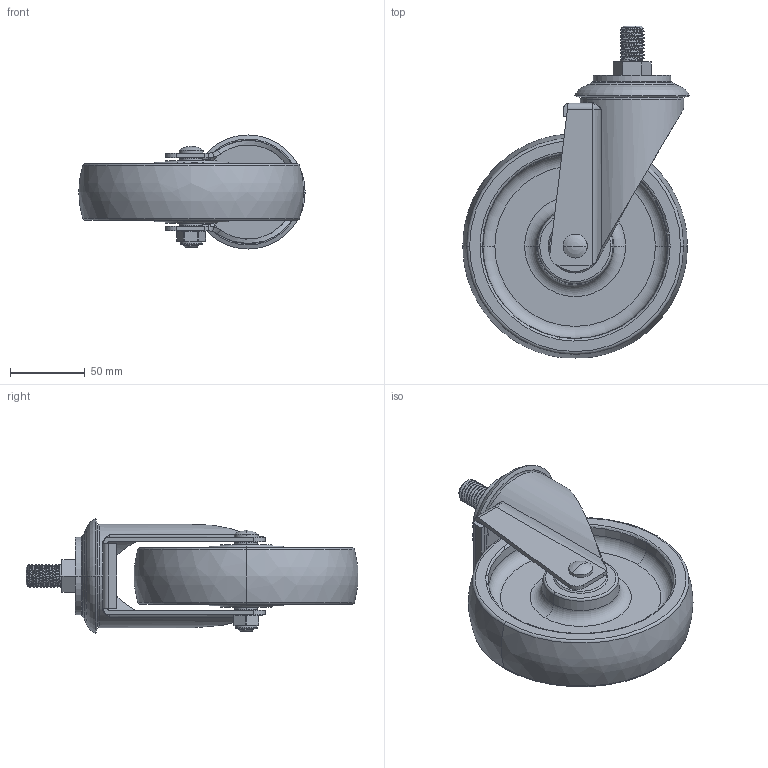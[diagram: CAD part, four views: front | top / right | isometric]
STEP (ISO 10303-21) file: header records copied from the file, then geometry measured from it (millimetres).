
FILE_DESCRIPTION((''),'2;1');
FILE_NAME('64136-646-06_ASM','2021-03-25T',('lenovo'),(''),'PRO/ENGINEER BY PARAMETRIC TECHNOLOGY CORPORATION, 2010280','PRO/ENGINEER BY PARAMETRIC TECHNOLOGY CORPORATION, 2010280','');
FILE_SCHEMA(('CONFIG_CONTROL_DESIGN'));
Length unit declared in the file: millimetre
Products named in the file (6): 6410-53; 646-11; 646-806; 630-33A; 630-34; 64136-646-06_ASM
Assembly tree (5 placements, depth 2):
  64136-646-06_ASM
    6410-53
    646-11
    646-806
    630-33A
    630-34
Bounding box: 151.16 x 221.7 x 76.26 mm (x, y, z)
Volume: 492094.6 mm3; surface area: 115159.3 mm2
Topology: 5 solids, 5 shells, 230 faces, 534 edges, 327 vertices
Faces by surface type: cylinder 66, plane 58, torus 38, cone 36, bspline 30, sphere 2
Entity records: 10264 total; most frequent: CARTESIAN_POINT 5047, ORIENTED_EDGE 1064, DIRECTION 1055, EDGE_CURVE 532, AXIS2_PLACEMENT_3D 433, VERTEX_POINT 327, EDGE_LOOP 253, FACE_OUTER_BOUND 230
